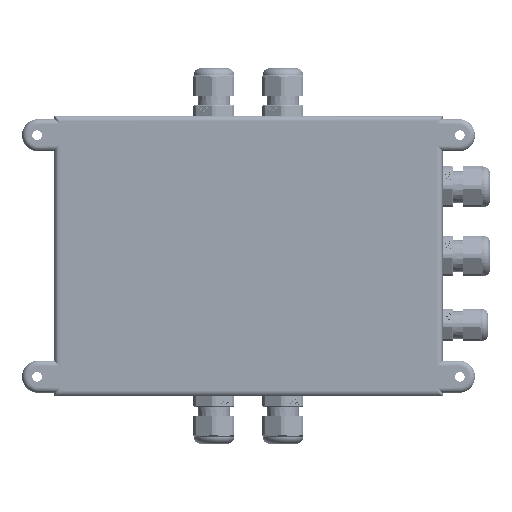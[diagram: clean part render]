
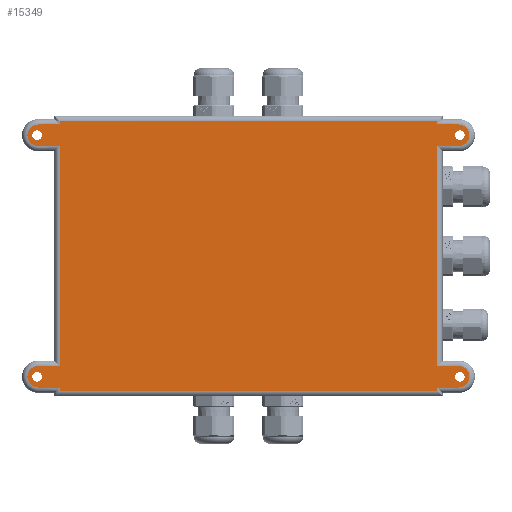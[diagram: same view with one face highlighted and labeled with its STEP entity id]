
A CAD part, front view. The second image highlights one B-rep face of the part: STEP entity #15349.
In plain terms, the highlighted planar face has unit normal (0, -1, 0).
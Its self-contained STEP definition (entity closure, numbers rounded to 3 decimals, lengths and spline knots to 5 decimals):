
#15349=ADVANCED_FACE('109:176',(#28353,#28354,#28355,#28356,#28357),#28358,.F.);
#28353=FACE_OUTER_BOUND('',#47623,.T.);
#28354=FACE_BOUND('',#47624,.T.);
#28355=FACE_BOUND('',#47625,.T.);
#28356=FACE_BOUND('',#47626,.T.);
#28357=FACE_BOUND('',#47627,.T.);
#28358=PLANE('',#47628);
#47623=EDGE_LOOP('',(#74460,#74461,#74462,#74463,#74464,#74465,#74466,#74467,#74468,#74469,#74470,#74471,#74472,#74473,#74474,#74475,#74476,#74477,#74478,#74479));
#47624=EDGE_LOOP('',(#74480,#74481));
#47625=EDGE_LOOP('',(#74482,#74483));
#47626=EDGE_LOOP('',(#74484,#74485));
#47627=EDGE_LOOP('',(#74486,#74487));
#47628=AXIS2_PLACEMENT_3D('',#74488,#74489,#74490);
#74460=ORIENTED_EDGE('',*,*,#96448,.F.);
#74461=ORIENTED_EDGE('',*,*,#96445,.F.);
#74462=ORIENTED_EDGE('',*,*,#96605,.T.);
#74463=ORIENTED_EDGE('',*,*,#96587,.F.);
#74464=ORIENTED_EDGE('',*,*,#96437,.F.);
#74465=ORIENTED_EDGE('',*,*,#96606,.T.);
#74466=ORIENTED_EDGE('',*,*,#96607,.T.);
#74467=ORIENTED_EDGE('',*,*,#96581,.F.);
#74468=ORIENTED_EDGE('',*,*,#96394,.F.);
#74469=ORIENTED_EDGE('',*,*,#96431,.F.);
#74470=ORIENTED_EDGE('',*,*,#96428,.F.);
#74471=ORIENTED_EDGE('',*,*,#96425,.F.);
#74472=ORIENTED_EDGE('',*,*,#96608,.T.);
#74473=ORIENTED_EDGE('',*,*,#96593,.F.);
#74474=ORIENTED_EDGE('',*,*,#96417,.F.);
#74475=ORIENTED_EDGE('',*,*,#96609,.T.);
#74476=ORIENTED_EDGE('',*,*,#96610,.T.);
#74477=ORIENTED_EDGE('',*,*,#96599,.F.);
#74478=ORIENTED_EDGE('',*,*,#96406,.F.);
#74479=ORIENTED_EDGE('',*,*,#96611,.T.);
#74480=ORIENTED_EDGE('',*,*,#96612,.T.);
#74481=ORIENTED_EDGE('',*,*,#96385,.T.);
#74482=ORIENTED_EDGE('',*,*,#96613,.T.);
#74483=ORIENTED_EDGE('',*,*,#96381,.T.);
#74484=ORIENTED_EDGE('',*,*,#96614,.T.);
#74485=ORIENTED_EDGE('',*,*,#96377,.T.);
#74486=ORIENTED_EDGE('',*,*,#96615,.T.);
#74487=ORIENTED_EDGE('',*,*,#96389,.T.);
#74488=CARTESIAN_POINT('',(0.0,0.0,0.0));
#74489=DIRECTION('',(0.0,1.0,0.0));
#74490=DIRECTION('',(0.0,0.0,1.0));
#96377=EDGE_CURVE('136:63',#117117,#117114,#117118,.T.);
#96381=EDGE_CURVE('136:690',#117125,#117122,#117126,.T.);
#96385=EDGE_CURVE('136:1299',#117133,#117130,#117134,.T.);
#96389=EDGE_CURVE('136:1914',#117141,#117138,#117142,.T.);
#96394=EDGE_CURVE('139:2306',#117149,#117151,#117152,.T.);
#96406=EDGE_CURVE('139:2264',#117172,#117174,#117175,.T.);
#96417=EDGE_CURVE('139:2282',#117192,#117194,#117195,.T.);
#96425=EDGE_CURVE('139:6897',#117207,#117209,#117210,.T.);
#96428=EDGE_CURVE('139:6990',#117209,#117214,#117215,.T.);
#96431=EDGE_CURVE('139:2288',#117214,#117149,#117218,.T.);
#96437=EDGE_CURVE('139:7291',#117226,#117228,#117229,.T.);
#96445=EDGE_CURVE('139:2216',#117241,#117243,#117244,.T.);
#96448=EDGE_CURVE('139:2210',#117243,#117247,#117248,.T.);
#96581=EDGE_CURVE('139:2300',#117151,#117469,#117470,.T.);
#96587=EDGE_CURVE('139:7285',#117228,#117478,#117479,.T.);
#96593=EDGE_CURVE('139:2276',#117194,#117487,#117488,.T.);
#96599=EDGE_CURVE('139:2258',#117174,#117496,#117497,.T.);
#96605=EDGE_CURVE('139:2312',#117241,#117478,#117504,.T.);
#96606=EDGE_CURVE('139:2222',#117226,#117505,#117506,.T.);
#96607=EDGE_CURVE('139:2294',#117505,#117469,#117507,.T.);
#96608=EDGE_CURVE('139:2270',#117207,#117487,#117508,.T.);
#96609=EDGE_CURVE('139:2240',#117192,#117509,#117510,.T.);
#96610=EDGE_CURVE('139:2252',#117509,#117496,#117511,.T.);
#96611=EDGE_CURVE('139:2246',#117172,#117247,#117512,.T.);
#96612=EDGE_CURVE('136:1299',#117130,#117133,#117513,.T.);
#96613=EDGE_CURVE('136:690',#117122,#117125,#117514,.T.);
#96614=EDGE_CURVE('136:63',#117114,#117117,#117515,.T.);
#96615=EDGE_CURVE('136:1914',#117138,#117141,#117516,.T.);
#117114=VERTEX_POINT('',#142072);
#117117=VERTEX_POINT('',#142076);
#117118=CIRCLE('',#142077,0.00225);
#117122=VERTEX_POINT('',#142082);
#117125=VERTEX_POINT('',#142086);
#117126=CIRCLE('',#142087,0.00225);
#117130=VERTEX_POINT('',#142092);
#117133=VERTEX_POINT('',#142096);
#117134=CIRCLE('',#142097,0.00225);
#117138=VERTEX_POINT('',#142102);
#117141=VERTEX_POINT('',#142106);
#117142=CIRCLE('',#142107,0.00225);
#117149=VERTEX_POINT('',#142116);
#117151=VERTEX_POINT('',#142118);
#117152=LINE('',#142119,#142120);
#117172=VERTEX_POINT('',#142145);
#117174=VERTEX_POINT('',#142147);
#117175=LINE('',#142148,#142149);
#117192=VERTEX_POINT('',#142171);
#117194=VERTEX_POINT('',#142173);
#117195=LINE('',#142174,#142175);
#117207=VERTEX_POINT('',#142190);
#117209=VERTEX_POINT('',#142192);
#117210=LINE('',#142193,#142194);
#117214=VERTEX_POINT('',#142199);
#117215=LINE('',#142200,#142201);
#117218=LINE('',#142205,#142206);
#117226=VERTEX_POINT('',#142217);
#117228=VERTEX_POINT('',#142219);
#117229=LINE('',#142220,#142221);
#117241=VERTEX_POINT('',#142236);
#117243=VERTEX_POINT('',#142238);
#117244=LINE('',#142239,#142240);
#117247=VERTEX_POINT('',#142244);
#117248=LINE('',#142245,#142246);
#117469=VERTEX_POINT('',#142523);
#117470=CIRCLE('',#142524,0.005);
#117478=VERTEX_POINT('',#142533);
#117479=CIRCLE('',#142534,0.005);
#117487=VERTEX_POINT('',#142543);
#117488=CIRCLE('',#142544,0.005);
#117496=VERTEX_POINT('',#142553);
#117497=CIRCLE('',#142554,0.005);
#117504=LINE('',#142562,#142563);
#117505=VERTEX_POINT('',#142564);
#117506=LINE('',#142565,#142566);
#117507=LINE('',#142567,#142568);
#117508=LINE('',#142569,#142570);
#117509=VERTEX_POINT('',#142571);
#117510=LINE('',#142572,#142573);
#117511=LINE('',#142574,#142575);
#117512=LINE('',#142576,#142577);
#117513=CIRCLE('',#142578,0.00225);
#117514=CIRCLE('',#142579,0.00225);
#117515=CIRCLE('',#142580,0.00225);
#117516=CIRCLE('',#142581,0.00225);
#142072=CARTESIAN_POINT('',(0.10025,0.0,0.056));
#142076=CARTESIAN_POINT('',(0.09575,0.0,0.056));
#142077=AXIS2_PLACEMENT_3D('',#158226,#158227,#158228);
#142082=CARTESIAN_POINT('',(0.10025,0.0,-0.056));
#142086=CARTESIAN_POINT('',(0.09575,0.0,-0.056));
#142087=AXIS2_PLACEMENT_3D('',#158234,#158235,#158236);
#142092=CARTESIAN_POINT('',(-0.10025,0.0,0.056));
#142096=CARTESIAN_POINT('',(-0.09575,0.0,0.056));
#142097=AXIS2_PLACEMENT_3D('',#158242,#158243,#158244);
#142102=CARTESIAN_POINT('',(-0.10025,0.0,-0.056));
#142106=CARTESIAN_POINT('',(-0.09575,0.0,-0.056));
#142107=AXIS2_PLACEMENT_3D('',#158250,#158251,#158252);
#142116=CARTESIAN_POINT('',(-0.0875,0.0,-0.061));
#142118=CARTESIAN_POINT('',(-0.0975,0.0,-0.061));
#142119=CARTESIAN_POINT('',(-0.04712,0.0,-0.061));
#142120=VECTOR('',#158261,1.0);
#142145=CARTESIAN_POINT('',(0.0875,0.0,0.061));
#142147=CARTESIAN_POINT('',(0.0975,0.0,0.061));
#142148=CARTESIAN_POINT('',(0.04713,0.0,0.061));
#142149=VECTOR('',#158285,1.0);
#142171=CARTESIAN_POINT('',(0.0875,0.0,-0.051));
#142173=CARTESIAN_POINT('',(0.0975,0.0,-0.051));
#142174=CARTESIAN_POINT('',(0.04713,0.0,-0.051));
#142175=VECTOR('',#158306,1.0);
#142190=CARTESIAN_POINT('',(0.0875,0.0,-0.061));
#142192=CARTESIAN_POINT('',(0.0875,0.0,-0.0625));
#142193=CARTESIAN_POINT('',(0.0875,0.0,0.0));
#142194=VECTOR('',#158322,1.0);
#142199=CARTESIAN_POINT('',(-0.0875,0.0,-0.0625));
#142200=CARTESIAN_POINT('',(0.0,0.0,-0.0625));
#142201=VECTOR('',#158327,1.0);
#142205=CARTESIAN_POINT('',(-0.0875,0.0,0.0));
#142206=VECTOR('',#158332,1.0);
#142217=CARTESIAN_POINT('',(-0.0875,0.0,0.051));
#142219=CARTESIAN_POINT('',(-0.0975,0.0,0.051));
#142220=CARTESIAN_POINT('',(-0.04713,0.0,0.051));
#142221=VECTOR('',#158342,1.0);
#142236=CARTESIAN_POINT('',(-0.0875,0.0,0.061));
#142238=CARTESIAN_POINT('',(-0.0875,0.0,0.0625));
#142239=CARTESIAN_POINT('',(-0.0875,0.0,0.0));
#142240=VECTOR('',#158358,1.0);
#142244=CARTESIAN_POINT('',(0.0875,0.0,0.0625));
#142245=CARTESIAN_POINT('',(0.0,0.0,0.0625));
#142246=VECTOR('',#158363,1.0);
#142523=CARTESIAN_POINT('',(-0.0975,0.0,-0.051));
#142524=AXIS2_PLACEMENT_3D('',#158648,#158649,#158650);
#142533=CARTESIAN_POINT('',(-0.0975,0.0,0.061));
#142534=AXIS2_PLACEMENT_3D('',#158664,#158665,#158666);
#142543=CARTESIAN_POINT('',(0.0975,0.0,-0.061));
#142544=AXIS2_PLACEMENT_3D('',#158680,#158681,#158682);
#142553=CARTESIAN_POINT('',(0.0975,0.0,0.051));
#142554=AXIS2_PLACEMENT_3D('',#158696,#158697,#158698);
#142562=CARTESIAN_POINT('',(-0.04713,0.0,0.061));
#142563=VECTOR('',#158712,1.0);
#142564=CARTESIAN_POINT('',(-0.0875,0.0,-0.051));
#142565=CARTESIAN_POINT('',(-0.0875,0.0,0.0));
#142566=VECTOR('',#158713,1.0);
#142567=CARTESIAN_POINT('',(-0.04712,0.0,-0.051));
#142568=VECTOR('',#158714,1.0);
#142569=CARTESIAN_POINT('',(0.04713,0.0,-0.061));
#142570=VECTOR('',#158715,1.0);
#142571=CARTESIAN_POINT('',(0.0875,0.0,0.051));
#142572=CARTESIAN_POINT('',(0.0875,0.0,0.0));
#142573=VECTOR('',#158716,1.0);
#142574=CARTESIAN_POINT('',(0.04713,0.0,0.051));
#142575=VECTOR('',#158717,1.0);
#142576=CARTESIAN_POINT('',(0.0875,0.0,0.0));
#142577=VECTOR('',#158718,1.0);
#142578=AXIS2_PLACEMENT_3D('',#158719,#158720,#158721);
#142579=AXIS2_PLACEMENT_3D('',#158722,#158723,#158724);
#142580=AXIS2_PLACEMENT_3D('',#158725,#158726,#158727);
#142581=AXIS2_PLACEMENT_3D('',#158728,#158729,#158730);
#158226=CARTESIAN_POINT('',(0.098,0.0,0.056));
#158227=DIRECTION('',(-0.0,1.0,0.0));
#158228=DIRECTION('',(1.0,0.0,0.0));
#158234=CARTESIAN_POINT('',(0.098,0.0,-0.056));
#158235=DIRECTION('',(-0.0,1.0,0.0));
#158236=DIRECTION('',(1.0,0.0,0.0));
#158242=CARTESIAN_POINT('',(-0.098,0.0,0.056));
#158243=DIRECTION('',(0.0,1.0,0.0));
#158244=DIRECTION('',(-1.0,0.0,0.));
#158250=CARTESIAN_POINT('',(-0.098,0.0,-0.056));
#158251=DIRECTION('',(0.0,1.0,0.0));
#158252=DIRECTION('',(-1.0,0.0,0.));
#158261=DIRECTION('',(-1.0,0.0,0.));
#158285=DIRECTION('',(1.0,0.0,0.0));
#158306=DIRECTION('',(1.0,0.0,0.0));
#158322=DIRECTION('',(0.0,0.0,-1.0));
#158327=DIRECTION('',(-1.0,0.0,0.0));
#158332=DIRECTION('',(0.0,0.0,1.0));
#158342=DIRECTION('',(-1.0,0.0,0.));
#158358=DIRECTION('',(0.0,0.0,1.0));
#158363=DIRECTION('',(1.0,0.0,0.0));
#158648=CARTESIAN_POINT('',(-0.0975,0.0,-0.056));
#158649=DIRECTION('',(0.0,1.0,0.0));
#158650=DIRECTION('',(-1.0,0.0,0.));
#158664=CARTESIAN_POINT('',(-0.0975,0.0,0.056));
#158665=DIRECTION('',(0.0,1.0,0.0));
#158666=DIRECTION('',(-1.0,0.0,0.));
#158680=CARTESIAN_POINT('',(0.0975,0.0,-0.056));
#158681=DIRECTION('',(-0.0,1.0,0.0));
#158682=DIRECTION('',(1.0,0.0,0.0));
#158696=CARTESIAN_POINT('',(0.0975,0.0,0.056));
#158697=DIRECTION('',(-0.0,1.0,0.0));
#158698=DIRECTION('',(1.0,0.0,0.0));
#158712=DIRECTION('',(-1.0,0.0,0.));
#158713=DIRECTION('',(0.0,0.0,-1.0));
#158714=DIRECTION('',(-1.0,0.0,0.));
#158715=DIRECTION('',(1.0,-0.0,0.0));
#158716=DIRECTION('',(0.0,0.0,1.0));
#158717=DIRECTION('',(1.0,-0.0,0.0));
#158718=DIRECTION('',(0.0,0.0,1.0));
#158719=CARTESIAN_POINT('',(-0.098,0.0,0.056));
#158720=DIRECTION('',(0.0,1.0,0.0));
#158721=DIRECTION('',(-1.0,0.0,0.));
#158722=CARTESIAN_POINT('',(0.098,0.0,-0.056));
#158723=DIRECTION('',(-0.0,1.0,0.0));
#158724=DIRECTION('',(1.0,0.0,0.0));
#158725=CARTESIAN_POINT('',(0.098,0.0,0.056));
#158726=DIRECTION('',(-0.0,1.0,0.0));
#158727=DIRECTION('',(1.0,0.0,0.0));
#158728=CARTESIAN_POINT('',(-0.098,0.0,-0.056));
#158729=DIRECTION('',(0.0,1.0,0.0));
#158730=DIRECTION('',(-1.0,0.0,0.));
